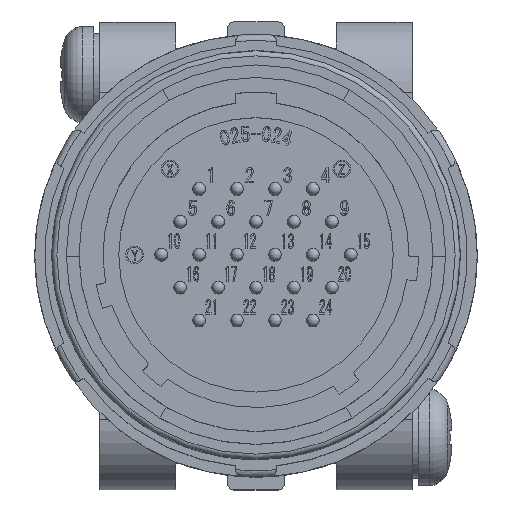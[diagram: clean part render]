
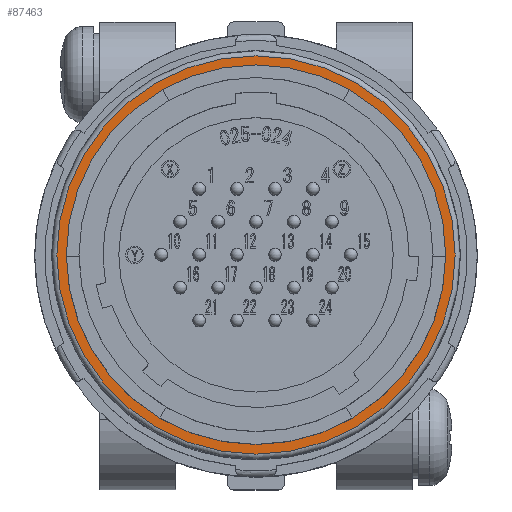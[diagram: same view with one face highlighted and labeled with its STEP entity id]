
A CAD part, top view. The second image highlights one B-rep face of the part: STEP entity #87463.
In plain terms, the highlighted planar face has unit normal (0, 0, 1).
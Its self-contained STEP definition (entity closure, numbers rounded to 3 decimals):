
#1433 = EDGE_CURVE ( 'NONE', #73593, #73593, #81597, .T. ) ;
#5058 = DIRECTION ( 'NONE',  ( 0., 0., 1. ) ) ;
#5084 = FACE_BOUND ( 'NONE', #75023, .T. ) ;
#10223 = AXIS2_PLACEMENT_3D ( 'NONE', #48686, #26879, #70355 ) ;
#21196 = PLANE ( 'NONE',  #43649 ) ;
#26879 = DIRECTION ( 'NONE',  ( 0., 0., -1. ) ) ;
#32177 = CIRCLE ( 'NONE', #45133, 15.75 ) ;
#37411 = FACE_OUTER_BOUND ( 'NONE', #86787, .T. ) ;
#43649 = AXIS2_PLACEMENT_3D ( 'NONE', #71460, #85118, #56938 ) ;
#45133 = AXIS2_PLACEMENT_3D ( 'NONE', #89860, #5058, #54818 ) ;
#48686 = CARTESIAN_POINT ( 'NONE',  ( 0., 0., -19.2 ) ) ;
#54818 = DIRECTION ( 'NONE',  ( 1., 0., 0. ) ) ;
#56938 = DIRECTION ( 'NONE',  ( -1., 0., 0. ) ) ;
#64558 = EDGE_CURVE ( 'NONE', #75568, #75568, #32177, .T. ) ;
#70355 = DIRECTION ( 'NONE',  ( -1., 0., 0. ) ) ;
#71460 = CARTESIAN_POINT ( 'NONE',  ( 0., 14.15, -19.2 ) ) ;
#73042 = CARTESIAN_POINT ( 'NONE',  ( 15.75, 0., -19.2 ) ) ;
#73593 = VERTEX_POINT ( 'NONE', #84240 ) ;
#75023 = EDGE_LOOP ( 'NONE', ( #86407 ) ) ;
#75568 = VERTEX_POINT ( 'NONE', #73042 ) ;
#81597 = CIRCLE ( 'NONE', #10223, 13.98 ) ;
#83664 = ORIENTED_EDGE ( 'NONE', *, *, #64558, .T. ) ;
#84240 = CARTESIAN_POINT ( 'NONE',  ( -13.98, 0., -19.2 ) ) ;
#85118 = DIRECTION ( 'NONE',  ( 0., 0., -1. ) ) ;
#86407 = ORIENTED_EDGE ( 'NONE', *, *, #1433, .T. ) ;
#86787 = EDGE_LOOP ( 'NONE', ( #83664 ) ) ;
#87463 = ADVANCED_FACE ( 'NONE', ( #5084, #37411 ), #21196, .F. ) ;
#89860 = CARTESIAN_POINT ( 'NONE',  ( 0., 0., -19.2 ) ) ;
